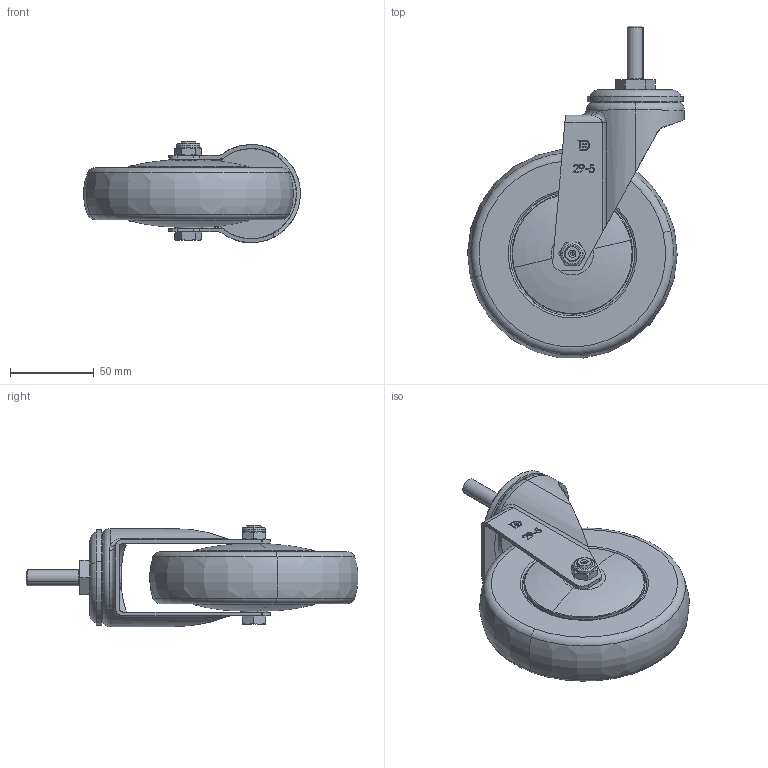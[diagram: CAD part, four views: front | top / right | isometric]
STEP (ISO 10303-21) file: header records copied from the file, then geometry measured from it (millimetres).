
FILE_DESCRIPTION (( 'STEP AP203' ), '1' );
FILE_NAME ('4112905002021-7.STEP', '2025-01-20T08:39:08', ( '' ), ( '' ), 'SwSTEP 2.0', 'SolidWorks 2019', '' );
FILE_SCHEMA (( 'CONFIG_CONTROL_DESIGN' ));
Length unit declared in the file: millimetre
Products named in the file (8): 4112905002021-7; 245042402001 墊圈-電鍍 23x15.2x2.3t_084048; 4201093202 3、4、5''''高級和4、5''''儀器架用牙心 8分之3''''-16牙x32L(New); 29系列絲扣5''''腳架上珠碗-展示用; 245020900003 尼龍螺帽  3 8''''(對邊14x7L); 29系列活動5''''插桿、絲扣腳架-展示用; 5全效輪-展; 242020954001 4''''.5''''儀器.高級活動用車心 20240124A8
Assembly tree (7 placements, depth 2):
  4112905002021-7
    29系列活動5''''插桿、絲扣腳架-展示用
    29系列絲扣5''''腳架上珠碗-展示用
    242020954001 4''''.5''''儀器.高級活動用車心 20240124A8
    245020900003 尼龍螺帽  3 8''''(對邊14x7L)
    245042402001 墊圈-電鍍 23x15.2x2.3t_084048
    4201093202 3、4、5''''高級和4、5''''儀器架用牙心 8分之3''''-16牙x32L(New)
    5全效輪-展
Bounding box: 129.15 x 197.74 x 60.45 mm (x, y, z)
Volume: 412564 mm3; surface area: 94518.9 mm2
Topology: 7 solids, 9 shells, 327 faces, 777 edges, 495 vertices
Faces by surface type: plane 118, cylinder 92, torus 50, cone 34, bspline 31, sphere 2
Entity records: 12195 total; most frequent: CARTESIAN_POINT 3812, DIRECTION 1593, ORIENTED_EDGE 1554, EDGE_CURVE 777, AXIS2_PLACEMENT_3D 628, VERTEX_POINT 495, EDGE_LOOP 374, VECTOR 337
